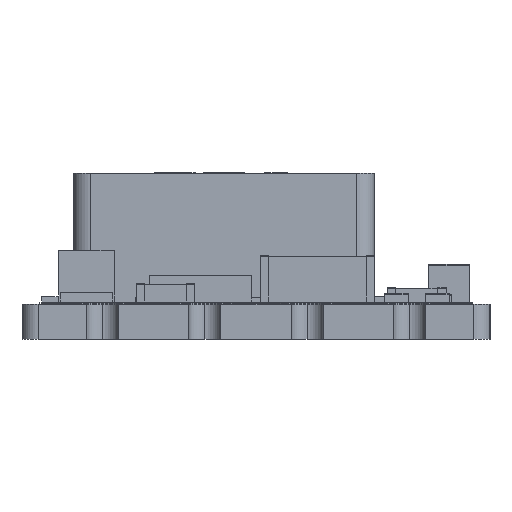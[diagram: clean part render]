
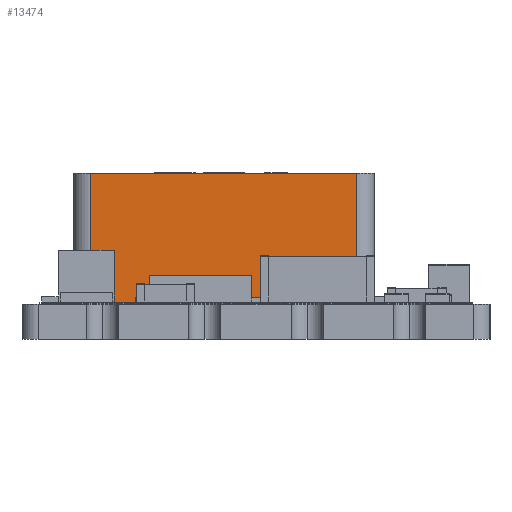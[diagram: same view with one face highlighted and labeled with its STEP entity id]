
A CAD part, left-side view. The second image highlights one B-rep face of the part: STEP entity #13474.
In plain terms, the highlighted planar face has unit normal (-1, 0, 0).
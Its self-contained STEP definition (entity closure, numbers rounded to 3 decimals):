
#13474 = ADVANCED_FACE('',(#13475),#13489,.F.);
#13475 = FACE_BOUND('',#13476,.F.);
#13476 = EDGE_LOOP('',(#13477,#13512,#13540,#13568));
#13477 = ORIENTED_EDGE('',*,*,#13478,.F.);
#13478 = EDGE_CURVE('',#13479,#13481,#13483,.T.);
#13479 = VERTEX_POINT('',#13480);
#13480 = CARTESIAN_POINT('',(2.85,-3.45,5.68));
#13481 = VERTEX_POINT('',#13482);
#13482 = CARTESIAN_POINT('',(2.85,5.65,5.68));
#13483 = SURFACE_CURVE('',#13484,(#13488,#13500),.PCURVE_S1.);
#13484 = LINE('',#13485,#13486);
#13485 = CARTESIAN_POINT('',(2.85,-4.05,5.68));
#13486 = VECTOR('',#13487,1.);
#13487 = DIRECTION('',(0.,1.,0.));
#13488 = PCURVE('',#13489,#13494);
#13489 = PLANE('',#13490);
#13490 = AXIS2_PLACEMENT_3D('',#13491,#13492,#13493);
#13491 = CARTESIAN_POINT('',(2.85,-4.05,1.24));
#13492 = DIRECTION('',(1.,0.,0.));
#13493 = DIRECTION('',(0.,0.,1.));
#13494 = DEFINITIONAL_REPRESENTATION('',(#13495),#13499);
#13495 = LINE('',#13496,#13497);
#13496 = CARTESIAN_POINT('',(4.44,0.));
#13497 = VECTOR('',#13498,1.);
#13498 = DIRECTION('',(0.,-1.));
#13499 = ( GEOMETRIC_REPRESENTATION_CONTEXT(2) 
PARAMETRIC_REPRESENTATION_CONTEXT() REPRESENTATION_CONTEXT('2D SPACE',''
  ) );
#13500 = PCURVE('',#13501,#13506);
#13501 = PLANE('',#13502);
#13502 = AXIS2_PLACEMENT_3D('',#13503,#13504,#13505);
#13503 = CARTESIAN_POINT('',(2.85,-4.05,5.68));
#13504 = DIRECTION('',(0.,0.,1.));
#13505 = DIRECTION('',(1.,0.,0.));
#13506 = DEFINITIONAL_REPRESENTATION('',(#13507),#13511);
#13507 = LINE('',#13508,#13509);
#13508 = CARTESIAN_POINT('',(0.,0.));
#13509 = VECTOR('',#13510,1.);
#13510 = DIRECTION('',(0.,1.));
#13511 = ( GEOMETRIC_REPRESENTATION_CONTEXT(2) 
PARAMETRIC_REPRESENTATION_CONTEXT() REPRESENTATION_CONTEXT('2D SPACE',''
  ) );
#13512 = ORIENTED_EDGE('',*,*,#13513,.F.);
#13513 = EDGE_CURVE('',#13514,#13479,#13516,.T.);
#13514 = VERTEX_POINT('',#13515);
#13515 = CARTESIAN_POINT('',(2.85,-3.45,1.24));
#13516 = SURFACE_CURVE('',#13517,(#13521,#13528),.PCURVE_S1.);
#13517 = LINE('',#13518,#13519);
#13518 = CARTESIAN_POINT('',(2.85,-3.45,1.24));
#13519 = VECTOR('',#13520,1.);
#13520 = DIRECTION('',(0.,0.,1.));
#13521 = PCURVE('',#13489,#13522);
#13522 = DEFINITIONAL_REPRESENTATION('',(#13523),#13527);
#13523 = LINE('',#13524,#13525);
#13524 = CARTESIAN_POINT('',(0.,-0.6));
#13525 = VECTOR('',#13526,1.);
#13526 = DIRECTION('',(1.,0.));
#13527 = ( GEOMETRIC_REPRESENTATION_CONTEXT(2) 
PARAMETRIC_REPRESENTATION_CONTEXT() REPRESENTATION_CONTEXT('2D SPACE',''
  ) );
#13528 = PCURVE('',#13529,#13534);
#13529 = CYLINDRICAL_SURFACE('',#13530,0.6);
#13530 = AXIS2_PLACEMENT_3D('',#13531,#13532,#13533);
#13531 = CARTESIAN_POINT('',(3.45,-3.45,1.24));
#13532 = DIRECTION('',(0.,0.,1.));
#13533 = DIRECTION('',(-1.,-0.,0.));
#13534 = DEFINITIONAL_REPRESENTATION('',(#13535),#13539);
#13535 = LINE('',#13536,#13537);
#13536 = CARTESIAN_POINT('',(0.,0.));
#13537 = VECTOR('',#13538,1.);
#13538 = DIRECTION('',(0.,1.));
#13539 = ( GEOMETRIC_REPRESENTATION_CONTEXT(2) 
PARAMETRIC_REPRESENTATION_CONTEXT() REPRESENTATION_CONTEXT('2D SPACE',''
  ) );
#13540 = ORIENTED_EDGE('',*,*,#13541,.T.);
#13541 = EDGE_CURVE('',#13514,#13542,#13544,.T.);
#13542 = VERTEX_POINT('',#13543);
#13543 = CARTESIAN_POINT('',(2.85,5.65,1.24));
#13544 = SURFACE_CURVE('',#13545,(#13549,#13556),.PCURVE_S1.);
#13545 = LINE('',#13546,#13547);
#13546 = CARTESIAN_POINT('',(2.85,-4.05,1.24));
#13547 = VECTOR('',#13548,1.);
#13548 = DIRECTION('',(0.,1.,0.));
#13549 = PCURVE('',#13489,#13550);
#13550 = DEFINITIONAL_REPRESENTATION('',(#13551),#13555);
#13551 = LINE('',#13552,#13553);
#13552 = CARTESIAN_POINT('',(0.,0.));
#13553 = VECTOR('',#13554,1.);
#13554 = DIRECTION('',(0.,-1.));
#13555 = ( GEOMETRIC_REPRESENTATION_CONTEXT(2) 
PARAMETRIC_REPRESENTATION_CONTEXT() REPRESENTATION_CONTEXT('2D SPACE',''
  ) );
#13556 = PCURVE('',#13557,#13562);
#13557 = PLANE('',#13558);
#13558 = AXIS2_PLACEMENT_3D('',#13559,#13560,#13561);
#13559 = CARTESIAN_POINT('',(2.85,-4.05,1.24));
#13560 = DIRECTION('',(0.,0.,1.));
#13561 = DIRECTION('',(1.,0.,0.));
#13562 = DEFINITIONAL_REPRESENTATION('',(#13563),#13567);
#13563 = LINE('',#13564,#13565);
#13564 = CARTESIAN_POINT('',(0.,0.));
#13565 = VECTOR('',#13566,1.);
#13566 = DIRECTION('',(0.,1.));
#13567 = ( GEOMETRIC_REPRESENTATION_CONTEXT(2) 
PARAMETRIC_REPRESENTATION_CONTEXT() REPRESENTATION_CONTEXT('2D SPACE',''
  ) );
#13568 = ORIENTED_EDGE('',*,*,#13569,.T.);
#13569 = EDGE_CURVE('',#13542,#13481,#13570,.T.);
#13570 = SURFACE_CURVE('',#13571,(#13575,#13582),.PCURVE_S1.);
#13571 = LINE('',#13572,#13573);
#13572 = CARTESIAN_POINT('',(2.85,5.65,1.24));
#13573 = VECTOR('',#13574,1.);
#13574 = DIRECTION('',(0.,0.,1.));
#13575 = PCURVE('',#13489,#13576);
#13576 = DEFINITIONAL_REPRESENTATION('',(#13577),#13581);
#13577 = LINE('',#13578,#13579);
#13578 = CARTESIAN_POINT('',(0.,-9.7));
#13579 = VECTOR('',#13580,1.);
#13580 = DIRECTION('',(1.,0.));
#13581 = ( GEOMETRIC_REPRESENTATION_CONTEXT(2) 
PARAMETRIC_REPRESENTATION_CONTEXT() REPRESENTATION_CONTEXT('2D SPACE',''
  ) );
#13582 = PCURVE('',#13583,#13588);
#13583 = CYLINDRICAL_SURFACE('',#13584,0.6);
#13584 = AXIS2_PLACEMENT_3D('',#13585,#13586,#13587);
#13585 = CARTESIAN_POINT('',(3.45,5.65,1.24));
#13586 = DIRECTION('',(0.,0.,1.));
#13587 = DIRECTION('',(-1.,-0.,0.));
#13588 = DEFINITIONAL_REPRESENTATION('',(#13589),#13593);
#13589 = LINE('',#13590,#13591);
#13590 = CARTESIAN_POINT('',(-0.,0.));
#13591 = VECTOR('',#13592,1.);
#13592 = DIRECTION('',(-0.,1.));
#13593 = ( GEOMETRIC_REPRESENTATION_CONTEXT(2) 
PARAMETRIC_REPRESENTATION_CONTEXT() REPRESENTATION_CONTEXT('2D SPACE',''
  ) );
